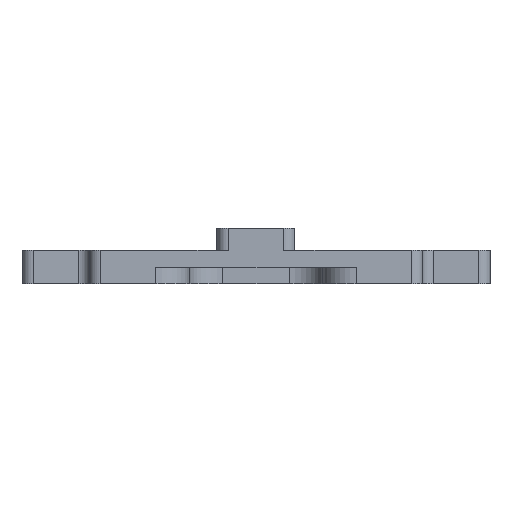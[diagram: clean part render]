
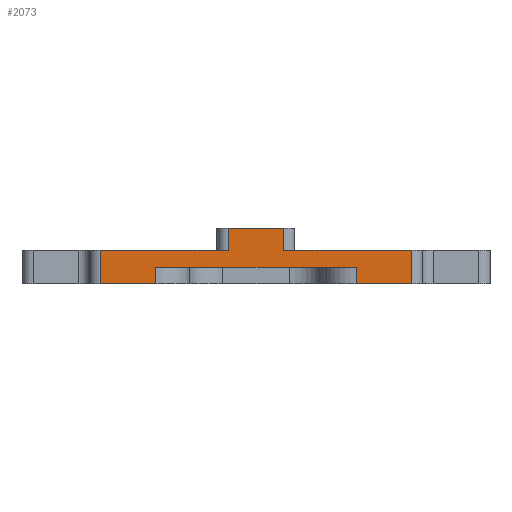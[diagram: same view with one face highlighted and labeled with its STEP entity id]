
A CAD part, front view. The second image highlights one B-rep face of the part: STEP entity #2073.
In plain terms, the highlighted planar face has unit normal (0, -1, 0).
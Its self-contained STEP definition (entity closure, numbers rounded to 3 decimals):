
#79=PLANE('',#2300);
#132=FACE_OUTER_BOUND('',#277,.T.);
#277=EDGE_LOOP('',(#1623,#1624,#1625,#1626,#1627,#1628,#1629,#1630,#1631,
#1632,#1633,#1634));
#505=LINE('',#3138,#690);
#509=LINE('',#3154,#694);
#537=LINE('',#3302,#722);
#539=LINE('',#3314,#724);
#563=LINE('',#3421,#748);
#567=LINE('',#3428,#752);
#580=LINE('',#3453,#765);
#581=LINE('',#3455,#766);
#582=LINE('',#3456,#767);
#583=LINE('',#3458,#768);
#584=LINE('',#3460,#769);
#585=LINE('',#3461,#770);
#690=VECTOR('',#2464,10.);
#694=VECTOR('',#2476,10.);
#722=VECTOR('',#2604,10.);
#724=VECTOR('',#2614,10.);
#748=VECTOR('',#2714,10.);
#752=VECTOR('',#2724,10.);
#765=VECTOR('',#2759,10.);
#766=VECTOR('',#2760,10.);
#767=VECTOR('',#2761,10.);
#768=VECTOR('',#2762,10.);
#769=VECTOR('',#2763,10.);
#770=VECTOR('',#2764,10.);
#887=VERTEX_POINT('',#3135);
#888=VERTEX_POINT('',#3137);
#895=VERTEX_POINT('',#3151);
#896=VERTEX_POINT('',#3153);
#965=VERTEX_POINT('',#3299);
#966=VERTEX_POINT('',#3301);
#971=VERTEX_POINT('',#3311);
#972=VERTEX_POINT('',#3313);
#1018=VERTEX_POINT('',#3452);
#1019=VERTEX_POINT('',#3454);
#1020=VERTEX_POINT('',#3457);
#1021=VERTEX_POINT('',#3459);
#1086=EDGE_CURVE('',#887,#888,#505,.F.);
#1094=EDGE_CURVE('',#895,#896,#509,.F.);
#1170=EDGE_CURVE('',#965,#966,#537,.F.);
#1176=EDGE_CURVE('',#971,#972,#539,.F.);
#1233=EDGE_CURVE('',#896,#965,#563,.T.);
#1237=EDGE_CURVE('',#972,#887,#567,.T.);
#1250=EDGE_CURVE('',#1018,#895,#580,.T.);
#1251=EDGE_CURVE('',#1019,#1018,#581,.T.);
#1252=EDGE_CURVE('',#888,#1019,#582,.T.);
#1253=EDGE_CURVE('',#1020,#971,#583,.T.);
#1254=EDGE_CURVE('',#1020,#1021,#584,.T.);
#1255=EDGE_CURVE('',#966,#1021,#585,.T.);
#1623=ORIENTED_EDGE('',*,*,#1233,.F.);
#1624=ORIENTED_EDGE('',*,*,#1094,.F.);
#1625=ORIENTED_EDGE('',*,*,#1250,.F.);
#1626=ORIENTED_EDGE('',*,*,#1251,.F.);
#1627=ORIENTED_EDGE('',*,*,#1252,.F.);
#1628=ORIENTED_EDGE('',*,*,#1086,.F.);
#1629=ORIENTED_EDGE('',*,*,#1237,.F.);
#1630=ORIENTED_EDGE('',*,*,#1176,.F.);
#1631=ORIENTED_EDGE('',*,*,#1253,.F.);
#1632=ORIENTED_EDGE('',*,*,#1254,.T.);
#1633=ORIENTED_EDGE('',*,*,#1255,.F.);
#1634=ORIENTED_EDGE('',*,*,#1170,.F.);
#2073=ADVANCED_FACE('',(#132),#79,.T.);
#2300=AXIS2_PLACEMENT_3D('',#3451,#2757,#2758);
#2464=DIRECTION('',(-1.,0.,0.));
#2476=DIRECTION('',(-1.,0.,0.));
#2604=DIRECTION('',(1.,0.,0.));
#2614=DIRECTION('',(1.,0.,0.));
#2714=DIRECTION('',(0.,0.,-1.));
#2724=DIRECTION('',(0.,0.,1.));
#2757=DIRECTION('center_axis',(0.,-1.,0.));
#2758=DIRECTION('ref_axis',(1.,0.,0.));
#2759=DIRECTION('',(0.,0.,-1.));
#2760=DIRECTION('',(1.,0.,0.));
#2761=DIRECTION('',(0.,0.,1.));
#2762=DIRECTION('',(0.,0.,-1.));
#2763=DIRECTION('',(1.,0.,0.));
#2764=DIRECTION('',(0.,0.,1.));
#3135=CARTESIAN_POINT('',(-13.95,-499.5,18.));
#3137=CARTESIAN_POINT('',(-2.5,-499.5,18.));
#3138=CARTESIAN_POINT('',(-7.5,-499.5,18.));
#3151=CARTESIAN_POINT('',(2.5,-499.5,18.));
#3153=CARTESIAN_POINT('',(13.95,-499.5,18.));
#3154=CARTESIAN_POINT('',(-7.5,-499.5,18.));
#3299=CARTESIAN_POINT('',(13.95,-499.5,15.));
#3301=CARTESIAN_POINT('',(9.,-499.5,15.));
#3302=CARTESIAN_POINT('',(-7.5,-499.5,15.));
#3311=CARTESIAN_POINT('',(-9.,-499.5,15.));
#3313=CARTESIAN_POINT('',(-13.95,-499.5,15.));
#3314=CARTESIAN_POINT('',(-7.5,-499.5,15.));
#3421=CARTESIAN_POINT('',(13.95,-499.5,15.));
#3428=CARTESIAN_POINT('',(-13.95,-499.5,15.));
#3451=CARTESIAN_POINT('Origin',(-15.,-499.5,15.));
#3452=CARTESIAN_POINT('',(2.5,-499.5,20.));
#3453=CARTESIAN_POINT('',(2.5,-499.5,16.5));
#3454=CARTESIAN_POINT('',(-2.5,-499.5,20.));
#3455=CARTESIAN_POINT('',(6.,-499.5,20.));
#3456=CARTESIAN_POINT('',(-2.5,-499.5,16.5));
#3457=CARTESIAN_POINT('',(-9.,-499.5,16.5));
#3458=CARTESIAN_POINT('',(-9.,-499.5,15.75));
#3459=CARTESIAN_POINT('',(9.,-499.5,16.5));
#3460=CARTESIAN_POINT('',(-7.5,-499.5,16.5));
#3461=CARTESIAN_POINT('',(9.,-499.5,15.75));
